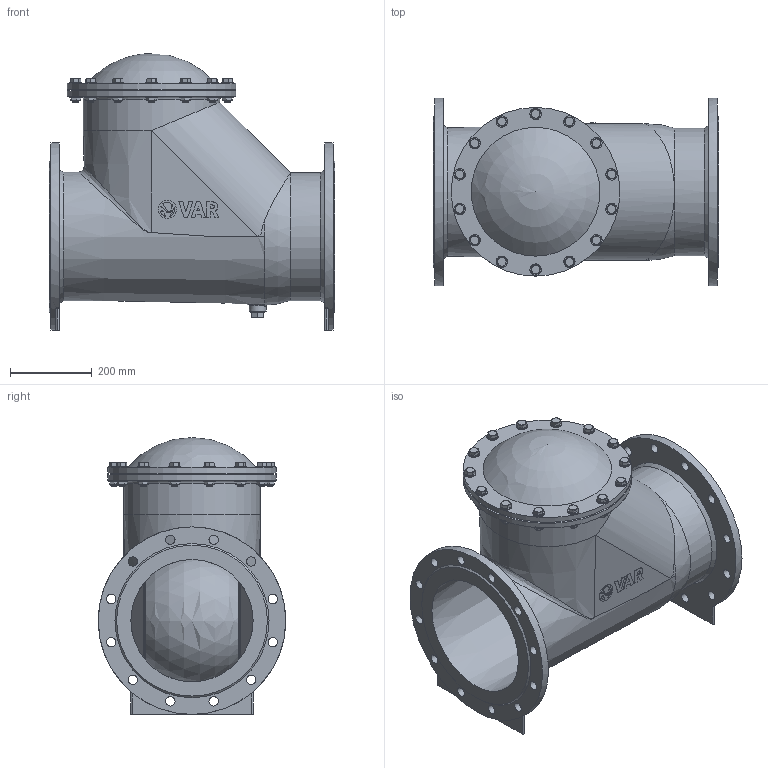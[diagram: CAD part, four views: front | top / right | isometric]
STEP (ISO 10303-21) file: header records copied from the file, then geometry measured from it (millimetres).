
FILE_DESCRIPTION(('STEP AP203'), '1');
FILE_NAME('Øàðîâîé îáðàòíûé êëàïàí VAG KRV', '', ('UNSPECIFIED'), ('UNSPECIFIED'), 'C3D Converter', 'C3D Toolkit', '');
FILE_SCHEMA(('CONFIG_CONTROL_DESIGN'));
Length unit declared in the file: millimetre
Assembly tree (62 placements, depth 2):
  (unnamed)
    (unnamed)
    (unnamed)
    (unnamed)
    (unnamed)
    (unnamed)
    (unnamed)  x14
    (unnamed)  x14
    (unnamed)  x14
    (unnamed)  x14
    (unnamed)
Bounding box: 700 x 460 x 679 mm (x, y, z)
Volume: 31762919.4 mm3; surface area: 3496444.9 mm2
Topology: 63 solids, 64 shells, 919 faces, 2279 edges, 1550 vertices
Faces by surface type: plane 455, cylinder 165, extrusion 158, cone 99, torus 18, bspline 15, sphere 9
Full cylindrical faces by diameter (mm): 14.376 x14, 16 x14, 17 x28, 18 x28, 20 x2, 21 x1, 23 x24, 28 x14, 28.19 x1, 30 x14, 34 x1, 41 x1, 44.406 x1, 300 x1, 314 x1, 321 x1, 335 x1, 414 x2, 460 x2
Entity records: 24343 total; most frequent: CARTESIAN_POINT 9413, ORIENTED_EDGE 2270, DIRECTION 1834, EDGE_CURVE 1135, VERTEX_POINT 805, EDGE_LOOP 714, VECTOR 666, AXIS2_PLACEMENT_3D 584
